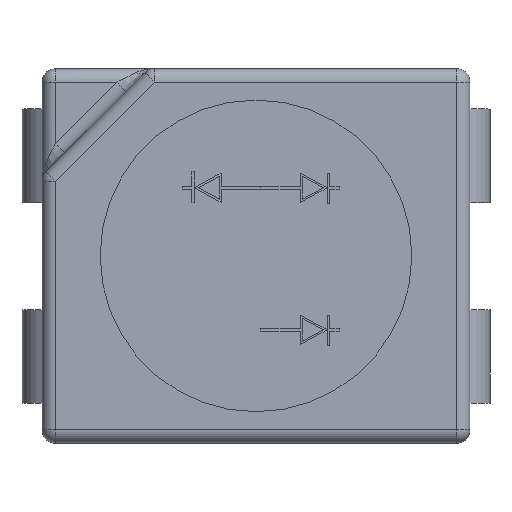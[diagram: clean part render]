
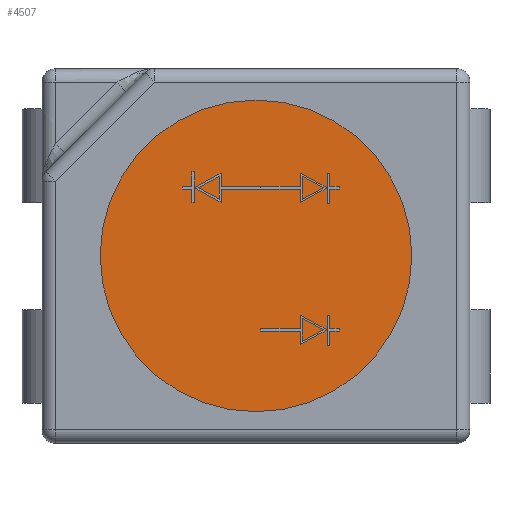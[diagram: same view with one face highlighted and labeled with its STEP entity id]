
A CAD part, top view. The second image highlights one B-rep face of the part: STEP entity #4507.
In plain terms, the highlighted planar face has unit normal (0, 0, 1) as drawn and (0, 1, 0) by its records, which use the part's own axes.
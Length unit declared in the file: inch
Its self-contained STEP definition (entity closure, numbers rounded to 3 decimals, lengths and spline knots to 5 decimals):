
#185=PLANE('',#4831);
#1540=FACE_OUTER_BOUND('',#1808,.T.);
#1808=EDGE_LOOP('',(#3470));
#2050=CIRCLE('',#4829,1.1652);
#2182=VERTEX_POINT('',#6693);
#2664=EDGE_CURVE('',#2182,#2182,#2050,.T.);
#3470=ORIENTED_EDGE('',*,*,#2664,.T.);
#4507=ADVANCED_FACE('',(#1540),#185,.T.);
#4829=AXIS2_PLACEMENT_3D('',#6694,#5402,#5403);
#4831=AXIS2_PLACEMENT_3D('',#6697,#5406,#5407);
#5402=DIRECTION('center_axis',(0.,1.,0.));
#5403=DIRECTION('ref_axis',(0.,0.,1.));
#5406=DIRECTION('center_axis',(0.,1.,0.));
#5407=DIRECTION('ref_axis',(0.,0.,1.));
#6693=CARTESIAN_POINT('',(0.,0.9,-1.1652));
#6694=CARTESIAN_POINT('Origin',(0.,0.9,0.));
#6697=CARTESIAN_POINT('Origin',(0.,0.9,0.));
